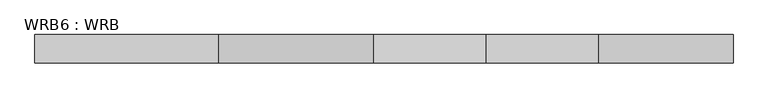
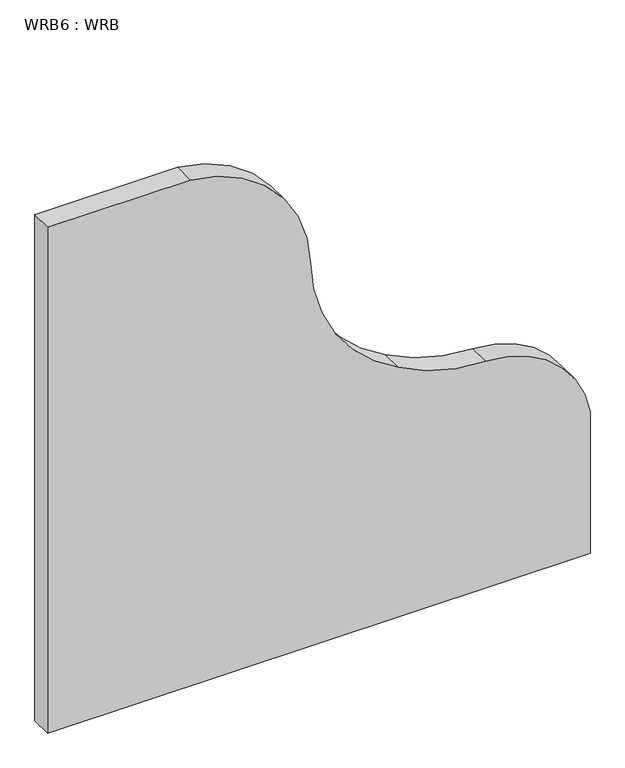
"""IFC4 building model written with IfcOpenShell, lengths in millimetres: proxy geometry, WRB6 : WRB."""

from ifc_helpers import new_model, si_unit, point, frame, frame_2d, origin, place, context, project, spatial, polyline, circle_curve, trimmed, segment, composite_curve, outline, extrude, source, transform, mapped, element, save


def wrb6_wrb_b78c85d5(model_context):
    return source(origin(), model_context, "Body", "SweptSolid", [
        extrude(outline(composite_curve([segment(polyline([(-19.05, 5761.647143), (-19.05, 7018.947143), (326.9760682, 7018.947143)]), True, "CONTINUOUS"), segment(trimmed(circle_curve(frame_2d((286.9857554, 6773.6368291)), 248.5485369), [point((326.9760682, 7018.947143))], [point((535.510358, 6777.0860471))], False, "CARTESIAN"), True, "CONTINUOUS"), segment(trimmed(circle_curve(frame_2d((948.5891228, 6782.819076)), 413.1185466), [point((535.510358, 6777.0860471))], [point((591.8706469, 6574.447143))], True, "CARTESIAN"), True, "CONTINUOUS"), segment(trimmed(circle_curve(frame_2d((925.1337293, 6745.2093528)), 374.4649709), [point((591.8706469, 6574.447143))], [point((918.4023164, 6370.804889))], True, "CARTESIAN"), True, "CONTINUOUS"), segment(trimmed(circle_curve(frame_2d((912.871688, 6063.18864)), 307.6659626), [point((918.4023164, 6370.804889))], [point((1219.2, 6091.847143))], False, "CARTESIAN"), True, "CONTINUOUS"), segment(polyline([(1219.2, 6091.847143), (1219.2, 5761.647143), (-19.05, 5761.647143)]), True, "CONTINUOUS")], self_intersect=False)), frame((0.0, 2795.8765644, 0.0), z_axis=(0.0, 1.0, 0.0), x_axis=(0.0, 0.0, 1.0)), (0.0, 0.0, 1.0), 50.8),
    ])


if __name__ == "__main__":
    model = new_model("IFC4")
    model_context = context("Model", 3, world=origin())
    ifc_project = project(units=[si_unit("LENGTHUNIT", "METRE", prefix="MILLI")], contexts=[model_context])
    site = spatial("IfcSite", under=ifc_project)
    building = spatial("IfcBuilding", under=site)
    placement = place(None, origin())
    wrb6_wrb_shape = wrb6_wrb_b78c85d5(model_context)
    element("IfcBuildingElementProxy", 1, Name="WRB6 : WRB", ObjectType="WRB6 : WRB", at=placement, inside=building, context=model_context, shape_type="MappedRepresentation", body=[
        mapped(wrb6_wrb_shape, transform((0.0, 0.0, 0.0), x_axis=(1.0, 0.0, 0.0), y_axis=(0.0, 1.0, 0.0), z_axis=(0.0, 0.0, 1.0))),
    ])
    save(model, "model.ifc")
